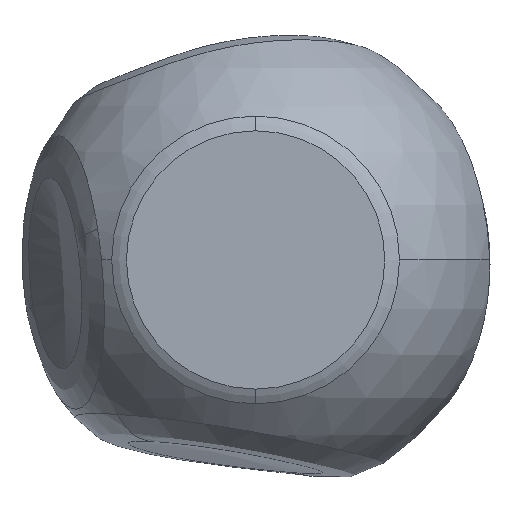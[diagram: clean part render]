
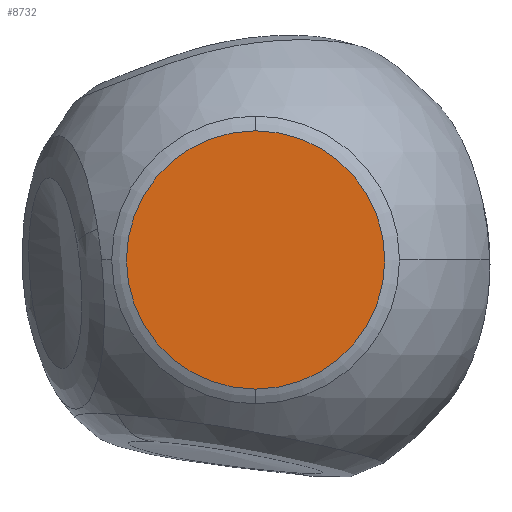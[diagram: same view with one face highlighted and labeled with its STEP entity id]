
A CAD part, front view. The second image highlights one B-rep face of the part: STEP entity #8732.
In plain terms, the highlighted planar face has unit normal (0, -1, 0).
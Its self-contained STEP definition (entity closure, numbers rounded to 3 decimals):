
#149 = AXIS2_PLACEMENT_3D ( 'NONE', #12573, #1759, #13834 ) ;
#1005 = ORIENTED_EDGE ( 'NONE', *, *, #13721, .F. ) ;
#1759 = DIRECTION ( 'NONE',  ( 0., -1., 0. ) ) ;
#1837 = PLANE ( 'NONE',  #149 ) ;
#2512 = DIRECTION ( 'NONE',  ( 0., 0., 1. ) ) ;
#4806 = ORIENTED_EDGE ( 'NONE', *, *, #5910, .F. ) ;
#5452 = AXIS2_PLACEMENT_3D ( 'NONE', #14115, #15454, #2512 ) ;
#5910 = EDGE_CURVE ( 'NONE', #14771, #9458, #13501, .T. ) ;
#7754 = FACE_OUTER_BOUND ( 'NONE', #13415, .T. ) ;
#8732 = ADVANCED_FACE ( 'NONE', ( #7754 ), #1837, .T. ) ;
#9458 = VERTEX_POINT ( 'NONE', #11987 ) ;
#9722 = AXIS2_PLACEMENT_3D ( 'NONE', #14302, #13041, #15486 ) ;
#11987 = CARTESIAN_POINT ( 'NONE',  ( 0., 5.25, -35. ) ) ;
#12265 = CIRCLE ( 'NONE', #5452, 35. ) ;
#12573 = CARTESIAN_POINT ( 'NONE',  ( -33., 5.25, 0. ) ) ;
#13041 = DIRECTION ( 'NONE',  ( 0., 1., 0. ) ) ;
#13221 = CARTESIAN_POINT ( 'NONE',  ( 0., 5.25, 35. ) ) ;
#13415 = EDGE_LOOP ( 'NONE', ( #4806, #1005 ) ) ;
#13501 = CIRCLE ( 'NONE', #9722, 35. ) ;
#13721 = EDGE_CURVE ( 'NONE', #9458, #14771, #12265, .T. ) ;
#13834 = DIRECTION ( 'NONE',  ( 0., 0., -1. ) ) ;
#14115 = CARTESIAN_POINT ( 'NONE',  ( 0., 5.25, 0. ) ) ;
#14302 = CARTESIAN_POINT ( 'NONE',  ( 0., 5.25, 0. ) ) ;
#14771 = VERTEX_POINT ( 'NONE', #13221 ) ;
#15454 = DIRECTION ( 'NONE',  ( 0., 1., 0. ) ) ;
#15486 = DIRECTION ( 'NONE',  ( 0., 0., 1. ) ) ;
